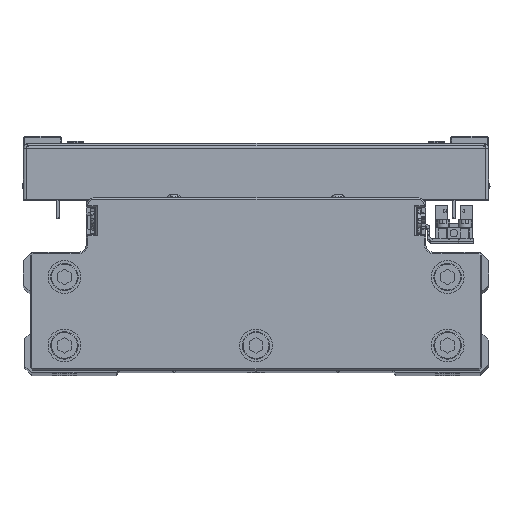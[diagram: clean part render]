
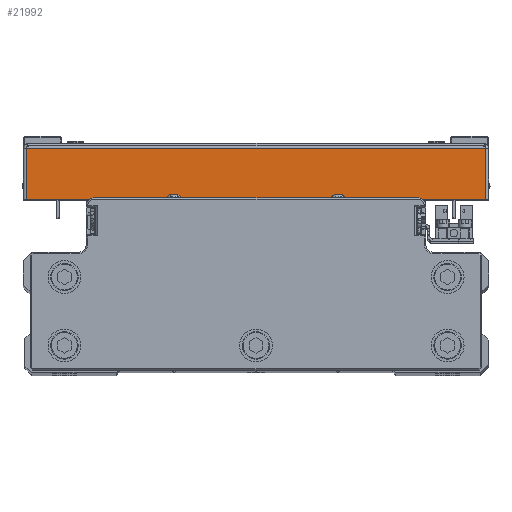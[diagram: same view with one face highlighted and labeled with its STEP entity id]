
A CAD part, top view. The second image highlights one B-rep face of the part: STEP entity #21992.
In plain terms, the highlighted planar face has unit normal (0, 0, 1) as drawn and (1, 0, 0) by its records, which use the part's own axes.
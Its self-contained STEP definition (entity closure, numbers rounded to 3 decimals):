
#441 = VERTEX_POINT ( 'NONE', #9209 ) ;
#644 = VECTOR ( 'NONE', #19232, 1000. ) ;
#2332 = ORIENTED_EDGE ( 'NONE', *, *, #19613, .T. ) ;
#3422 = EDGE_CURVE ( 'NONE', #441, #4832, #27633, .T. ) ;
#4822 = DIRECTION ( 'NONE',  ( 0., -1., 0. ) ) ;
#4832 = VERTEX_POINT ( 'NONE', #34572 ) ;
#5487 = CARTESIAN_POINT ( 'NONE',  ( 110., 19.5, 0. ) ) ;
#6095 = DIRECTION ( 'NONE',  ( 0., 0., 1. ) ) ;
#6721 = VERTEX_POINT ( 'NONE', #24331 ) ;
#8158 = VECTOR ( 'NONE', #10514, 1000. ) ;
#8212 = PLANE ( 'NONE',  #32378 ) ;
#9209 = CARTESIAN_POINT ( 'NONE',  ( 110., 1., -83.929 ) ) ;
#10514 = DIRECTION ( 'NONE',  ( 0., 1., 0. ) ) ;
#11200 = EDGE_CURVE ( 'NONE', #441, #6721, #23225, .T. ) ;
#11459 = CARTESIAN_POINT ( 'NONE',  ( 110., 0., 83.929 ) ) ;
#17222 = VECTOR ( 'NONE', #25215, 1000. ) ;
#19232 = DIRECTION ( 'NONE',  ( 0., 0., 1. ) ) ;
#19613 = EDGE_CURVE ( 'NONE', #4832, #33449, #36359, .T. ) ;
#19814 = EDGE_CURVE ( 'NONE', #6721, #33449, #42373, .T. ) ;
#21956 = CARTESIAN_POINT ( 'NONE',  ( 110., 0., 0. ) ) ;
#21992 = ADVANCED_FACE ( 'NONE', ( #39094 ), #8212, .F. ) ;
#23225 = LINE ( 'NONE', #36964, #29757 ) ;
#23314 = EDGE_LOOP ( 'NONE', ( #43718, #33649, #2332, #26814 ) ) ;
#24331 = CARTESIAN_POINT ( 'NONE',  ( 110., 1., 83.929 ) ) ;
#25215 = DIRECTION ( 'NONE',  ( 0., 1., 0. ) ) ;
#26814 = ORIENTED_EDGE ( 'NONE', *, *, #19814, .F. ) ;
#27633 = LINE ( 'NONE', #41414, #8158 ) ;
#29757 = VECTOR ( 'NONE', #6095, 1000. ) ;
#30547 = CARTESIAN_POINT ( 'NONE',  ( 110., 19.5, 83.929 ) ) ;
#32378 = AXIS2_PLACEMENT_3D ( 'NONE', #21956, #35703, #4822 ) ;
#33449 = VERTEX_POINT ( 'NONE', #30547 ) ;
#33649 = ORIENTED_EDGE ( 'NONE', *, *, #3422, .T. ) ;
#34572 = CARTESIAN_POINT ( 'NONE',  ( 110., 19.5, -83.929 ) ) ;
#35703 = DIRECTION ( 'NONE',  ( -1., 0., 0. ) ) ;
#36359 = LINE ( 'NONE', #5487, #644 ) ;
#36964 = CARTESIAN_POINT ( 'NONE',  ( 110., 1., 85. ) ) ;
#39094 = FACE_OUTER_BOUND ( 'NONE', #23314, .T. ) ;
#41414 = CARTESIAN_POINT ( 'NONE',  ( 110., 0., -83.929 ) ) ;
#42373 = LINE ( 'NONE', #11459, #17222 ) ;
#43718 = ORIENTED_EDGE ( 'NONE', *, *, #11200, .F. ) ;
